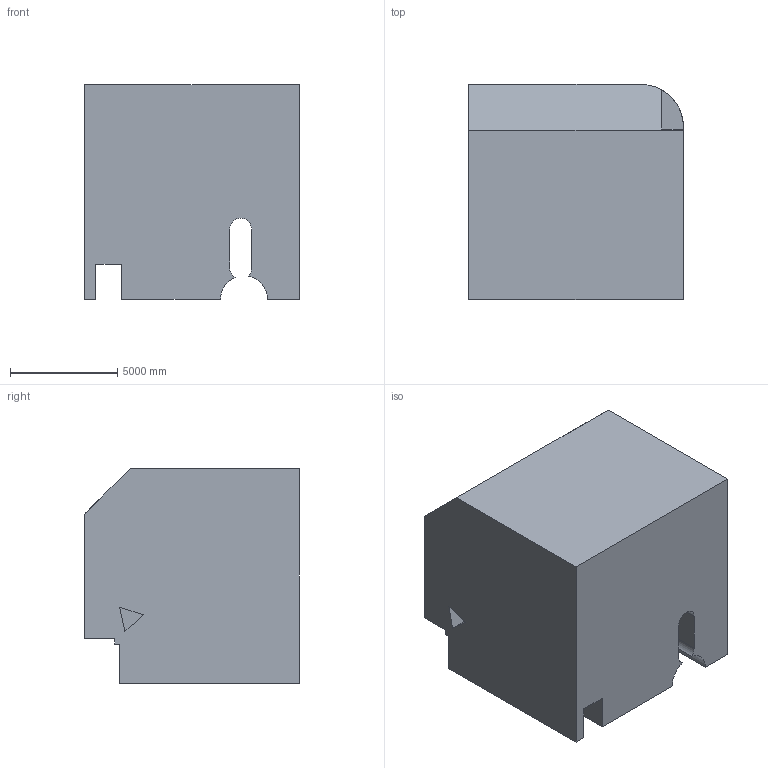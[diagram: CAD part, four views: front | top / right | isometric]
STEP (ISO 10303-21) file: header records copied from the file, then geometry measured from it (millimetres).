
FILE_DESCRIPTION (( 'STEP AP203' ), '1' );
FILE_NAME ('844.STEP', '2022-07-29T13:39:10', ( 'user' ), ( '' ), 'SwSTEP 2.0', 'SolidWorks 2021', '' );
FILE_SCHEMA (( 'CONFIG_CONTROL_DESIGN' ));
Length unit declared in the file: centimetre
Products named in the file (1): 844
Bounding box: 10000 x 10000 x 10000 mm (x, y, z)
Volume: 878883055126.2 mm3; surface area: 657019296.3 mm2
Topology: 1 solids, 1 shells, 35 faces, 96 edges, 64 vertices
Faces by surface type: plane 29, cylinder 6
Entity records: 1181 total; most frequent: CARTESIAN_POINT 199, ORIENTED_EDGE 192, DIRECTION 181, EDGE_CURVE 96, VECTOR 81, LINE 81, VERTEX_POINT 64, AXIS2_PLACEMENT_3D 50
